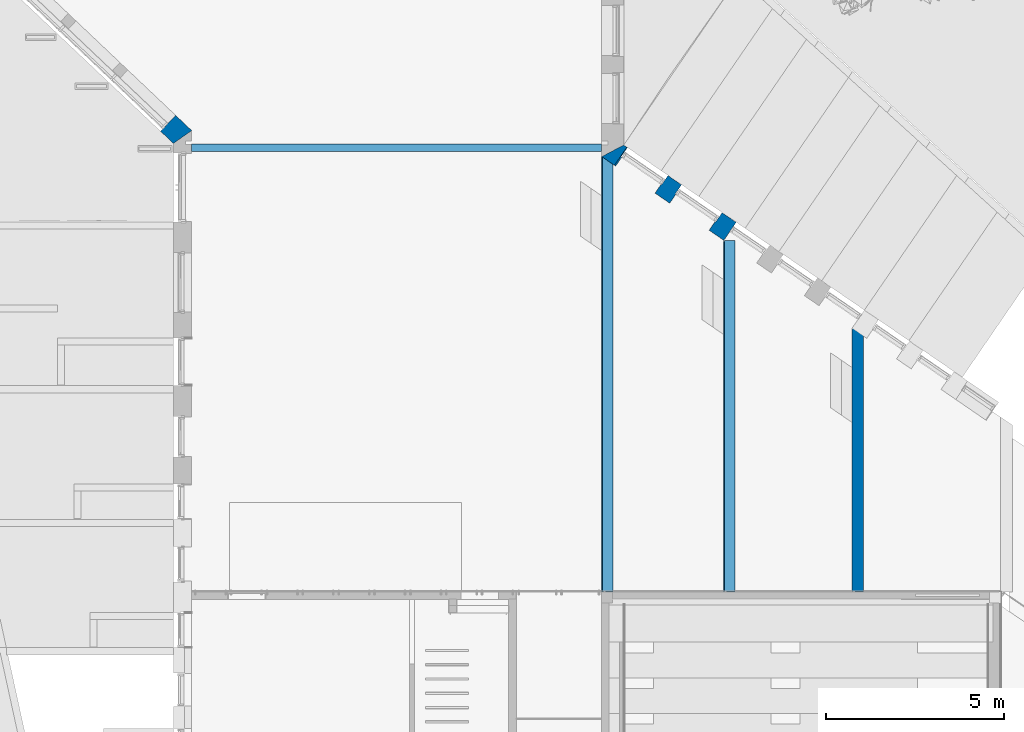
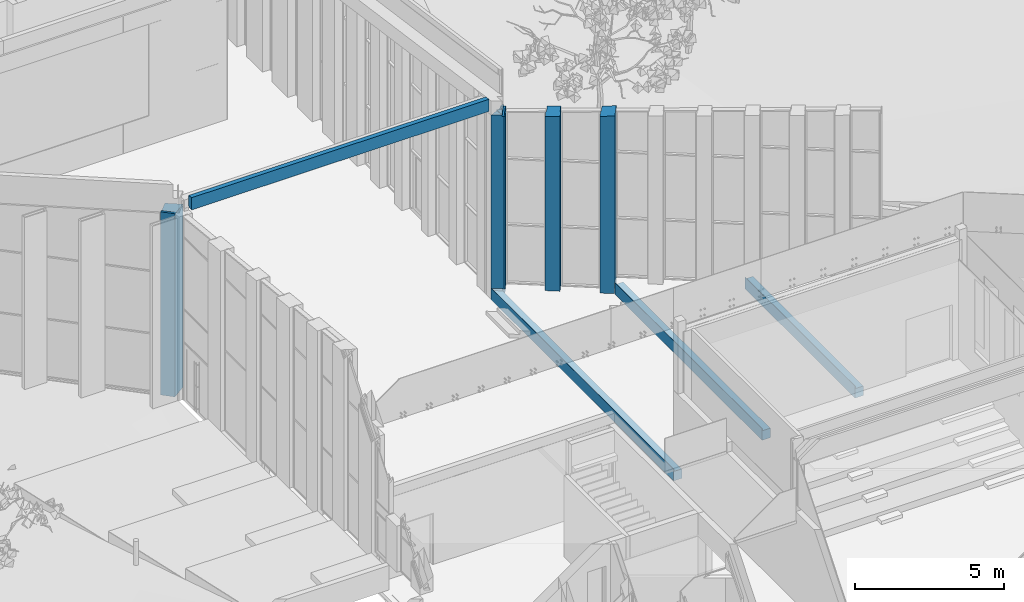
# One storey, part 124 of 246: 7 walls, 2 openings.
"""IFC2X3 building model written with IfcOpenShell, lengths in millimetres."""

from ifc_helpers import new_model, entity, si_unit, converted_unit, derived_unit, money_unit, direction, frame, origin_with_axes, place, context, subcontext, project, spatial, faceted_brep, material, material_list, type_object, element, save


model = new_model("IFC2X3")

# Units and contexts
model_context = context("Model", 3, precision=0.01, world=origin_with_axes(), true_north=direction((0.0, 1.0)))
body_context = subcontext(model_context, "Body", "Model", "MODEL_VIEW")
ifc_project = project(units=[si_unit("LENGTHUNIT", "METRE", prefix="MILLI"), si_unit("AREAUNIT", "SQUARE_METRE"), si_unit("VOLUMEUNIT", "CUBIC_METRE"), converted_unit("PLANEANGLEUNIT", "DEGREE", entity("IfcPlaneAngleMeasure", 0.0174532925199), si_unit("PLANEANGLEUNIT", "RADIAN"), dimensions=[0, 0, 0, 0, 0, 0, 0]), si_unit("SOLIDANGLEUNIT", "STERADIAN"), money_unit("EUR"), converted_unit("TIMEUNIT", "Year", entity("IfcTimeMeasure", 31556926.0), si_unit("TIMEUNIT", "SECOND"), dimensions=[0, 0, 1, 0, 0, 0, 0]), si_unit("MASSUNIT", "GRAM", prefix="KILO"), si_unit("THERMODYNAMICTEMPERATUREUNIT", "DEGREE_CELSIUS"), si_unit("LUMINOUSINTENSITYUNIT", "LUMEN"), si_unit("ENERGYUNIT", "JOULE", prefix="MEGA"), derived_unit("THERMALCONDUCTANCEUNIT", [(si_unit("POWERUNIT", "WATT"), 1), (si_unit("LENGTHUNIT", "METRE"), -1), (si_unit("THERMODYNAMICTEMPERATUREUNIT", "KELVIN"), -1)]), derived_unit("SPECIFICHEATCAPACITYUNIT", [(si_unit("ENERGYUNIT", "JOULE"), 1), (si_unit("MASSUNIT", "GRAM", prefix="KILO"), -1), (si_unit("THERMODYNAMICTEMPERATUREUNIT", "KELVIN"), -1)]), derived_unit("MASSDENSITYUNIT", [(si_unit("MASSUNIT", "GRAM", prefix="KILO"), 1), (si_unit("VOLUMEUNIT", "CUBIC_METRE"), -1)])], contexts=[model_context])

# Site, building, storey
site_placement = place(None, origin_with_axes())
site = spatial("IfcSite", under=ifc_project, at=site_placement, Name="L.Koidula tn 11b", CompositionType="ELEMENT")
building_placement = place(site_placement, origin_with_axes())
building = spatial("IfcBuilding", under=site, at=building_placement, Name="Rakvere Riigigümnaasium", CompositionType="ELEMENT")
storey_placement = place(building_placement, origin_with_axes())
storey = spatial("IfcBuildingStorey", under=building, at=storey_placement, Name="1.korrus 0,00", CompositionType="ELEMENT", Elevation=0.0)

# Walls
ifc_material_1 = material(Name="Betoon element / plaat")
wall_type_1 = type_object("IfcWallType", Name="SS-01 200", PredefinedType="NOTDEFINED")
wall_1_placement = place(storey_placement, frame((46999.9999935, 44064.4482372, 7600.0), z_axis=(0.0, 0.0, 1.0), x_axis=(-1.0, 0.0, 0.0)))
element("IfcWall", 1, at=wall_1_placement, inside=storey, type_object=wall_type_1, material=ifc_material_1, Name="Sisesein", context=body_context, shape_type="Brep", body=[
    faceted_brep([(11499.9999413, 0.0, 478.157530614), (0.0, 0.0, 477.982965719), (0.0, 0.0, 50.0), (129.527129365, 0.0, 50.0), (129.527129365, 0.0, 0.0), (11370.4728116, 0.0, 0.0), (11370.4728116, 0.0, 50.0), (11499.9999413, 0.0, 50.0), (0.0, 200.0, 499.003812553), (11499.9999413, 200.0, 499.178377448), (0.0, 200.0, 0.0), (0.0, 17.9388011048, 0.0), (0.0, 17.9388011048, 50.0), (129.527129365, 17.9388011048, 50.0), (129.527129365, 17.9388011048, 0.0), (11499.9999413, 200.0, 0.0), (11499.9999413, 12.9388011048, 0.0), (11370.4728116, 12.9388011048, 0.0), (11370.4728116, 12.9388011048, 50.0), (11499.9999413, 12.9388011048, 50.0)], [[[0, 1, 2, 3, 4, 5, 6, 7]], [[8, 1, 0, 9]], [[1, 8, 10, 11, 12, 2]], [[2, 12, 13, 3]], [[3, 13, 14, 4]], [[10, 15, 16, 17, 5, 4, 14, 11]], [[5, 17, 18, 6]], [[6, 18, 19, 7]], [[9, 0, 7, 19, 16, 15]], [[8, 9, 15, 10]], [[11, 14, 13, 12]], [[16, 19, 18, 17]]]),
])
ifc_material_2 = material(Name="Betoon-element")
ifc_material_3 = material(Name="FF-PIR soojustus")
ifc_material_4 = material(Name="Tuuletõke (RKL Facade)")
ifc_material_5 = material(Name="Salto-roovitus")
ifc_material_6 = material(Name="Puit-fassaad")
ifc_material_list_1 = material_list([ifc_material_2, ifc_material_3, ifc_material_4, ifc_material_5, ifc_material_5, ifc_material_6])
wall_type_2 = type_object("IfcWallType", Name="VS-02 614", PredefinedType="NOTDEFINED")
wall_2_placement = place(storey_placement, frame((47356.2591839, 43471.4770416, 0.0), z_axis=(0.0, 0.0, 1.0), x_axis=(-0.824666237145, 0.565619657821, 0.0)))
element("IfcWall", 2, at=wall_2_placement, inside=storey, type_object=wall_type_2, material=ifc_material_list_1, Name="Välissein", context=body_context, shape_type="Brep", body=[
    faceted_brep([(273.98367719, -300.000000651, 7521.50779913), (273.98367719, -300.000000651, 7573.30131546), (68.2190098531, -299.999999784, 7573.30131546), (68.2190098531, -300.0, 7497.4289826), (0.0, -300.0, 7501.48368194), (0.0, -300.0, 0.0), (273.983679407, -299.999999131, 0.0), (68.2189976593, 0.00227412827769, 7573.30131802), (68.2190078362, 1.1446360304e-05, 7497.4289826), (0.0, 1.13377964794e-05, 7501.48368182), (0.0, 0.0, 0.0), (43.9683219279, -3.61964680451e-07, 0.0), (168.110893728, -180.998284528, 0.0), (415.510764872, -11.3123871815, 0.0), (407.751860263, -3.35678862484e-06, 0.0), (432.004096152, -3.55643692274e-06, 0.0), (432.002540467, 0.00227412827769, 7544.0061072), (407.75185011, 1.14463460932e-05, 464.82180072), (43.9683138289, 1.14463460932e-05, 464.82180072), (168.110893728, -180.998284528, 464.82180072), (415.510764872, -11.3123871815, 464.82180072)], [[[0, 1, 2, 3, 4, 5, 6]], [[7, 1, 0]], [[1, 7, 2]], [[8, 3, 2, 7]], [[8, 9, 4, 3]], [[5, 4, 9, 10]], [[10, 11, 12, 13, 14, 15, 6, 5]], [[16, 0, 6, 15]], [[0, 16, 7]], [[7, 16, 15, 14, 17, 18, 11, 10, 9, 8]], [[11, 18, 19, 12]], [[12, 19, 20, 13]], [[13, 20, 17, 14]], [[17, 20, 19, 18]]]),
    faceted_brep([(179.171426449, -479.999999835, 7508.00904975), (179.171426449, -479.999999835, 7573.30131546), (68.2190110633, -479.999999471, 7573.30131546), (68.2190110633, -479.99999861, 7497.4289826), (0.0, -480.0, 7501.48368201), (0.0, -480.0, 0.0), (179.171428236, -479.99999861, 0.0), (68.2190099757, -318.232793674, 7573.30131546), (68.2190099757, -318.232793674, 7535.93714748), (68.2190098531, -299.997741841, 7538.07813582), (68.2190098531, -299.999999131, 7497.4289826), (0.0, -300.0, 7501.48368194), (0.0, -300.0, 0.0), (273.983679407, -299.999999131, 0.0), (273.982127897, -299.997741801, 7521.5081891)], [[[0, 1, 2, 3, 4, 5, 6]], [[7, 1, 0, 8]], [[1, 7, 2]], [[8, 9, 10, 3, 2, 7]], [[10, 11, 4, 3]], [[5, 4, 11, 12]], [[5, 12, 13, 6]], [[14, 0, 6, 13]], [[0, 14, 9, 8]], [[9, 14, 13, 12, 11, 10]]]),
    faceted_brep([(152.834690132, -529.999999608, 7504.25939714), (152.834690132, -529.999999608, 7573.30131546), (68.2190113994, -529.999999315, 7573.30131546), (68.2190113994, -530.0, 7497.4289826), (0.0, -530.0, 7501.48368203), (0.0, -530.0, 0.0), (152.834691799, -529.999998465, 0.0), (118.539288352, -479.997741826, 7573.30131546), (118.539288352, -479.997741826, 7512.89197463), (68.2190110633, -479.999999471, 7573.30131546), (68.2190110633, -480.0, 7497.4289826), (0.0, -480.0, 7501.48368201), (0.0, -480.0, 0.0), (179.171428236, -479.99999861, 0.0), (179.169877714, -479.997741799, 7508.00943958)], [[[0, 1, 2, 3, 4, 5, 6]], [[7, 1, 0, 8]], [[1, 7, 9, 2]], [[10, 3, 2, 9]], [[10, 11, 4, 3]], [[5, 4, 11, 12]], [[6, 5, 12, 13]], [[14, 0, 6, 13]], [[0, 14, 8]], [[8, 14, 13, 12, 11, 10, 9, 7]]]),
    faceted_brep([(135.979178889, -561.999999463, 7501.85961947), (135.979178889, -561.999999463, 7573.30131546), (68.2190116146, -561.999999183, 7573.30131546), (68.2190116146, -561.999998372, 7497.4289826), (0.0, -562.0, 7501.48368204), (0.0, -562.0, 0.0), (135.97918048, -561.999998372, 0.0), (114.029564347, -529.997741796, 7573.30131546), (114.029564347, -529.997741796, 7507.38460937), (68.2190113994, -529.999999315, 7573.30131546), (68.2190113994, -529.999998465, 7497.4289826), (0.0, -530.0, 7501.48368203), (0.0, -530.0, 0.0), (152.834691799, -529.999998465, 0.0), (152.833141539, -529.997741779, 7504.25978694)], [[[0, 1, 2, 3, 4, 5, 6]], [[7, 1, 0, 8]], [[1, 7, 9, 2]], [[10, 3, 2, 9]], [[10, 11, 4, 3]], [[5, 4, 11, 12]], [[5, 12, 13, 6]], [[14, 0, 6, 13]], [[0, 14, 8]], [[8, 14, 13, 12, 11, 10, 9, 7]]]),
    faceted_brep([(119.123667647, -593.999999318, 7499.45984181), (119.123667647, -593.999999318, 7573.30131546), (68.2190118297, -593.999999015, 7573.30131546), (68.2190118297, -593.99999828, 7497.4289826), (0.0, -594.0, 7501.48368206), (0.0, -594.0, 0.0), (119.123669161, -593.99999828, 0.0), (97.1740531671, -561.997741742, 7573.30131546), (97.1740531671, -561.997741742, 7504.98483169), (68.2190116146, -561.999999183, 7573.30131546), (68.2190116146, -561.999998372, 7497.4289826), (0.0, -562.0, 7501.48368204), (0.0, -562.0, 0.0), (135.97918048, -561.999998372, 0.0), (135.97763037, -561.997741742, 7501.86000926)], [[[0, 1, 2, 3, 4, 5, 6]], [[7, 1, 0, 8]], [[1, 7, 9, 2]], [[10, 3, 2, 9]], [[10, 11, 4, 3]], [[5, 4, 11, 12]], [[5, 12, 13, 6]], [[14, 0, 6, 13]], [[0, 14, 8]], [[8, 14, 13, 12, 11, 10, 9, 7]]]),
    faceted_brep([(108.58897365, -614.0, 7497.95998063), (94.0376321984, -614.0, 7499.13178904), (94.0376321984, -614.0, 7573.30131546), (68.2190119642, -614.0, 7573.30131546), (68.2190119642, -614.0, 7497.4289826), (0.0, -614.0, 7501.48368206), (0.0, -614.0, 0.0), (108.58897365, -614.0, 0.0), (119.122119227, -593.997741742, 7499.46023156), (80.3185420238, -593.997741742, 7502.585054), (80.3185420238, -593.997741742, 7573.30131546), (68.2190118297, -593.999999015, 7573.30131546), (68.2190118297, -593.99999828, 7497.4289826), (0.0, -594.0, 7501.48368206), (0.0, -594.0, 0.0), (119.123669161, -593.99999828, 0.0)], [[[0, 1, 2, 3, 4, 5, 6, 7]], [[1, 0, 8, 9]], [[10, 2, 1, 9]], [[2, 10, 11, 3]], [[12, 4, 3, 11]], [[12, 13, 5, 4]], [[6, 5, 13, 14]], [[6, 14, 15, 7]], [[8, 0, 7, 15]], [[9, 8, 15, 14, 13, 12, 11, 10]]]),
])

# Wall, openings
wall_3_placement = place(storey_placement, frame((50424.8422523, 41366.8062948, 465.0), z_axis=(0.0, 0.0, 1.0), x_axis=(-0.824666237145, 0.565619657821, 0.0)))
wall_3 = element("IfcWall", 3, at=wall_3_placement, inside=storey, type_object=wall_type_2, material=ifc_material_list_1, Name="Välissein", context=body_context, shape_type="Brep", body=[
    faceted_brep([(3721.0, -300.0, 7036.48368194), (3680.0, -300.0, 7038.92057853), (3680.0, -300.0, 0.0), (3721.0, -300.0, 0.0), (3680.0, 0.0, 7038.92057841), (3721.0, 0.0, 7036.48368182), (3680.0, 0.0, 0.0), (3721.0, 0.0, 0.0)], [[[0, 1, 2, 3]], [[4, 1, 0, 5]], [[1, 4, 6, 2]], [[3, 2, 6, 7]], [[5, 0, 3, 7]], [[4, 5, 7, 6]]]),
    faceted_brep([(2340.0, -300.0, 7118.56549165), (1840.00013675, -300.0, 7148.28373469), (1840.00013675, -300.0, 0.0), (2340.0, -300.0, 0.0), (1840.00013675, 0.0, 7148.28373457), (2340.0, 0.0, 7118.56549153), (1840.00013675, 0.0, 0.0), (2340.0, 0.0, 0.0)], [[[0, 1, 2, 3]], [[4, 1, 0, 5]], [[1, 4, 6, 2]], [[7, 3, 2, 6]], [[5, 0, 3, 7]], [[4, 5, 7, 6]]]),
    faceted_brep([(500.000136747, -300.0, 7227.9286478), (0.0, -299.999705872, 7257.64690709), (3.16191517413e-10, -299.998861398, 454.821815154), (211.634200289, -299.99892028, 454.821815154), (211.634200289, -299.99892028, 0.0), (500.000136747, -300.0, 0.0), (0.0, 0.0, 7257.64690697), (500.000136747, 0.0, 7227.92864768), (0.0, 0.0, 454.821815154), (5.87182153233, 0.0, 454.821815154), (5.87182153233, 0.0, 0.0), (500.000136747, 0.0, 0.0)], [[[0, 1, 2, 3, 4, 5]], [[6, 1, 0, 7]], [[1, 6, 8, 2]], [[3, 2, 8, 9]], [[3, 9, 10, 4]], [[4, 10, 11, 5]], [[7, 0, 5, 11]], [[6, 7, 11, 10, 9, 8]]]),
    faceted_brep([(3721.0, -480.0, 7036.48368201), (3700.0, -480.0, 7037.73184856), (3700.0, -480.0, 0.0), (3721.0, -480.0, 0.0), (3700.0, -300.0, 7037.73184849), (3721.0, -300.0, 7036.48368194), (3700.0, -300.0, 0.0), (3721.0, -300.0, 0.0)], [[[0, 1, 2, 3]], [[4, 1, 0, 5]], [[1, 4, 6, 2]], [[3, 2, 6, 7]], [[5, 0, 3, 7]], [[4, 5, 7, 6]]]),
    faceted_brep([(2320.0, -480.0, 7119.75422177), (1860.00013675, -480.0, 7147.09500471), (1860.00013675, -480.0, 0.0), (2320.0, -480.0, 0.0), (1860.00013675, -300.0, 7147.09500464), (2320.0, -300.0, 7119.7542217), (1860.00013675, -300.0, 0.0), (2320.0, -300.0, 0.0)], [[[0, 1, 2, 3]], [[4, 1, 0, 5]], [[1, 4, 6, 2]], [[7, 3, 2, 6]], [[5, 0, 3, 7]], [[4, 5, 7, 6]]]),
    faceted_brep([(480.000136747, -480.0, 7229.11737792), (0.0, -480.0, 7257.64690717), (0.0, -480.0, 0.0), (480.000136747, -480.0, 0.0), (0.0, -300.0, 7257.64690709), (480.000136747, -300.0, 7229.11737785), (0.0, -300.0, 0.0), (480.000136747, -300.0, 0.0)], [[[0, 1, 2, 3]], [[4, 1, 0, 5]], [[1, 4, 6, 2]], [[2, 6, 7, 3]], [[5, 0, 3, 7]], [[4, 5, 7, 6]]]),
    faceted_brep([(3721.0, -530.0, 7036.48368203), (3700.0, -530.0, 7037.73184858), (3700.0, -530.0, 0.0), (3721.0, -530.0, 0.0), (3700.0, -480.0, 7037.73184856), (3721.0, -480.0, 7036.48368201), (3700.0, -480.0, 0.0), (3721.0, -480.0, 0.0)], [[[0, 1, 2, 3]], [[4, 1, 0, 5]], [[1, 4, 6, 2]], [[3, 2, 6, 7]], [[5, 0, 3, 7]], [[4, 5, 7, 6]]]),
    faceted_brep([(2320.0, -530.0, 7119.75422179), (1860.00013675, -530.0, 7147.09500473), (1860.00013675, -530.0, 0.0), (2320.0, -530.0, 0.0), (1860.00013675, -480.0, 7147.09500471), (2320.0, -480.0, 7119.75422177), (1860.00013675, -480.0, 0.0), (2320.0, -480.0, 0.0)], [[[0, 1, 2, 3]], [[4, 1, 0, 5]], [[1, 4, 6, 2]], [[7, 3, 2, 6]], [[5, 0, 3, 7]], [[4, 5, 7, 6]]]),
    faceted_brep([(480.000136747, -530.0, 7229.11737794), (0.0, -530.0, 7257.64690719), (0.0, -530.0, 0.0), (480.000136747, -530.0, 0.0), (0.0, -480.0, 7257.64690717), (480.000136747, -480.0, 7229.11737792), (0.0, -480.0, 0.0), (480.000136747, -480.0, 0.0)], [[[0, 1, 2, 3]], [[4, 1, 0, 5]], [[1, 4, 6, 2]], [[2, 6, 7, 3]], [[5, 0, 3, 7]], [[4, 5, 7, 6]]]),
    faceted_brep([(3721.0, -562.0, 7036.48368204), (3700.0, -562.0, 7037.73184859), (3700.0, -562.0, 0.0), (3721.0, -562.0, 0.0), (3700.0, -530.0, 7037.73184858), (3721.0, -530.0, 7036.48368203), (3700.0, -530.0, 0.0), (3721.0, -530.0, 0.0)], [[[0, 1, 2, 3]], [[4, 1, 0, 5]], [[1, 4, 6, 2]], [[3, 2, 6, 7]], [[5, 0, 3, 7]], [[4, 5, 7, 6]]]),
    faceted_brep([(2320.0, -562.0, 7119.7542218), (1860.00013675, -562.0, 7147.09500474), (1860.00013675, -562.0, 0.0), (2320.0, -562.0, 0.0), (1860.00013675, -530.0, 7147.09500473), (2320.0, -530.0, 7119.75422179), (1860.00013675, -530.0, 0.0), (2320.0, -530.0, 0.0)], [[[0, 1, 2, 3]], [[4, 1, 0, 5]], [[1, 4, 6, 2]], [[7, 3, 2, 6]], [[5, 0, 3, 7]], [[4, 5, 7, 6]]]),
    faceted_brep([(480.000136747, -562.0, 7229.11737795), (0.0, -562.0, 7257.6469072), (0.0, -562.0, 0.0), (480.000136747, -562.0, 0.0), (0.0, -530.0, 7257.64690719), (480.000136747, -530.0, 7229.11737794), (0.0, -530.0, 0.0), (480.000136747, -530.0, 0.0)], [[[0, 1, 2, 3]], [[4, 1, 0, 5]], [[1, 4, 6, 2]], [[2, 6, 7, 3]], [[5, 0, 3, 7]], [[4, 5, 7, 6]]]),
    faceted_brep([(3721.0, -594.0, 7036.48368206), (3700.0, -594.0, 7037.7318486), (3700.0, -594.0, 0.0), (3721.0, -594.0, 0.0), (3700.0, -562.0, 7037.73184859), (3721.0, -562.0, 7036.48368204), (3700.0, -562.0, 0.0), (3721.0, -562.0, 0.0)], [[[0, 1, 2, 3]], [[4, 1, 0, 5]], [[1, 4, 6, 2]], [[3, 2, 6, 7]], [[5, 0, 3, 7]], [[4, 5, 7, 6]]]),
    faceted_brep([(2320.0, -594.0, 7119.75422181), (1860.00013675, -594.0, 7147.09500476), (1860.00013675, -594.0, 0.0), (2320.0, -594.0, 0.0), (1860.00013675, -562.0, 7147.09500474), (2320.0, -562.0, 7119.7542218), (1860.00013675, -562.0, 0.0), (2320.0, -562.0, 0.0)], [[[0, 1, 2, 3]], [[4, 1, 0, 5]], [[1, 4, 6, 2]], [[7, 3, 2, 6]], [[5, 0, 3, 7]], [[4, 5, 7, 6]]]),
    faceted_brep([(480.000136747, -594.0, 7229.11737797), (0.0, -594.0, 7257.64690721), (0.0, -594.0, 0.0), (480.000136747, -594.0, 0.0), (0.0, -562.0, 7257.6469072), (480.000136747, -562.0, 7229.11737795), (0.0, -562.0, 0.0), (480.000136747, -562.0, 0.0)], [[[0, 1, 2, 3]], [[4, 1, 0, 5]], [[1, 4, 6, 2]], [[2, 6, 7, 3]], [[5, 0, 3, 7]], [[4, 5, 7, 6]]]),
    faceted_brep([(3721.0, -614.0, 7036.48368206), (3700.0, -614.0, 7037.73184861), (3700.0, -614.0, 0.0), (3721.0, -614.0, 0.0), (3700.0, -594.0, 7037.7318486), (3721.0, -594.0, 7036.48368206), (3700.0, -594.0, 0.0), (3721.0, -594.0, 0.0)], [[[0, 1, 2, 3]], [[4, 1, 0, 5]], [[1, 4, 6, 2]], [[3, 2, 6, 7]], [[5, 0, 3, 7]], [[4, 5, 7, 6]]]),
    faceted_brep([(2320.0, -614.0, 7119.75422182), (1860.00013675, -614.0, 7147.09500476), (1860.00013675, -614.0, 0.0), (2320.0, -614.0, 0.0), (1860.00013675, -594.0, 7147.09500476), (2320.0, -594.0, 7119.75422181), (1860.00013675, -594.0, 0.0), (2320.0, -594.0, 0.0)], [[[0, 1, 2, 3]], [[4, 1, 0, 5]], [[1, 4, 6, 2]], [[7, 3, 2, 6]], [[5, 0, 3, 7]], [[4, 5, 7, 6]]]),
    faceted_brep([(480.000136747, -614.0, 7229.11737797), (0.0, -614.0, 7257.64690722), (0.0, -614.0, 0.0), (480.000136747, -614.0, 0.0), (0.0, -594.0, 7257.64690721), (480.000136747, -594.0, 7229.11737797), (0.0, -594.0, 0.0), (480.000136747, -594.0, 0.0)], [[[0, 1, 2, 3]], [[4, 1, 0, 5]], [[1, 4, 6, 2]], [[2, 6, 7, 3]], [[5, 0, 3, 7]], [[4, 5, 7, 6]]]),
])
opening_1_placement = place(wall_3_placement, frame((3010.0, 0.0, 0.0), z_axis=(0.0, 0.0, 1.0), x_axis=(1.0, 0.0, 0.0)))
element("IfcOpeningElement", 4, at=opening_1_placement, cuts=wall_3, Name="Ava", context=body_context, shape_type="Brep", body=[
    faceted_brep([(690.0, -300.0, 0.0), (690.0, -300.0, 7058.84158113), (690.0, -1228.0, 7058.84158113), (690.0, -1228.0, 0.0), (-690.0, -300.0, 0.0), (-690.0, -300.0, 7141.22964083), (-690.0, -1228.0, 7141.22964083), (-690.0, -1228.0, 0.0)], [[[0, 1, 2, 3]], [[0, 4, 5, 1]], [[1, 5, 6, 2]], [[3, 2, 6, 7]], [[4, 0, 3, 7]], [[5, 4, 7, 6]]]),
    faceted_brep([(-670.0, -300.0, 0.0), (-670.0, -300.0, 7120.0), (-670.0, 614.0, 7120.0), (-670.0, 614.0, 0.0), (670.0, -300.0, 0.0), (670.0, -300.0, 7040.0), (670.0, 614.0, 7040.0), (670.0, 614.0, 0.0)], [[[0, 1, 2, 3]], [[0, 4, 5, 1]], [[1, 5, 6, 2]], [[3, 2, 6, 7]], [[4, 0, 3, 7]], [[5, 4, 7, 6]]]),
])
opening_2_placement = place(wall_3_placement, frame((1170.00013675, 0.0, 0.0), z_axis=(0.0, 0.0, 1.0), x_axis=(1.0, 0.0, 0.0)))
element("IfcOpeningElement", 5, at=opening_2_placement, cuts=wall_3, Name="Ava", context=body_context, shape_type="Brep", body=[
    faceted_brep([(690.0, -300.0, 0.0), (690.0, -300.0, 7168.84158113), (690.0, -1228.0, 7168.84158113), (690.0, -1228.0, 0.0), (-690.0, -300.0, 0.0), (-690.0, -300.0, 7251.22964083), (-690.0, -1228.0, 7251.22964083), (-690.0, -1228.0, 0.0)], [[[0, 1, 2, 3]], [[0, 4, 5, 1]], [[1, 5, 6, 2]], [[3, 2, 6, 7]], [[4, 0, 3, 7]], [[5, 4, 7, 6]]]),
    faceted_brep([(-670.0, -300.0, 0.0), (-670.0, -300.0, 7230.0), (-670.0, 614.0, 7230.0), (-670.0, 614.0, 0.0), (670.0, -300.0, 0.0), (670.0, -300.0, 7150.0), (670.0, 614.0, 7150.0), (670.0, 614.0, 0.0)], [[[0, 1, 2, 3]], [[0, 4, 5, 1]], [[1, 5, 6, 2]], [[3, 2, 6, 7]], [[4, 0, 3, 7]], [[5, 4, 7, 6]]]),
])

# Walls
wall_4_placement = place(storey_placement, frame((35048.4690737, 44873.346345, 0.0), z_axis=(0.0, 0.0, 1.0), x_axis=(0.725934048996, -0.68776431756, 0.0)))
element("IfcWall", 6, at=wall_4_placement, inside=storey, type_object=wall_type_2, material=ifc_material_list_1, Name="Välissein", context=body_context, shape_type="Brep", body=[
    faceted_brep([(0.0, 0.0, 7428.27428385), (622.0, 0.0, 7489.60219288), (622.000011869, -1.25278347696e-05, 0.0), (0.0, 0.0, 0.0), (560.271560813, -300.0, 7484.1369258), (0.0, -300.0, 7428.89531276), (560.271560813, -300.000039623, 0.0), (0.0, -300.0, 0.0)], [[[0, 1, 2, 3]], [[4, 1, 0, 5]], [[1, 4, 6, 2]], [[7, 3, 2, 6]], [[5, 0, 3, 7]], [[4, 5, 7, 6]]]),
    faceted_brep([(0.0, -300.0, 7428.89531276), (560.271560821, -300.0, 7484.1369258), (560.271560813, -300.000039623, 0.0), (0.0, -300.0, 0.0), (523.234507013, -480.0, 7480.85776651), (0.0, -480.0, 7429.2679301), (523.234507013, -480.000016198, 0.0), (0.0, -480.0, 0.0)], [[[0, 1, 2, 3]], [[4, 1, 0, 5]], [[1, 4, 6, 2]], [[6, 7, 3, 2]], [[5, 0, 3, 7]], [[4, 5, 7, 6]]]),
    faceted_brep([(0.0, -480.0, 7429.2679301), (523.234507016, -480.0, 7480.85776651), (523.234507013, -480.000016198, 0.0), (0.0, -480.0, 0.0), (512.946437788, -530.0, 7479.94688905), (0.0, -530.0, 7429.37143492), (512.946437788, -530.000003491, 0.0), (0.0, -530.0, 0.0)], [[[0, 1, 2, 3]], [[4, 1, 0, 5]], [[1, 4, 6, 2]], [[6, 7, 3, 2]], [[5, 0, 3, 7]], [[4, 5, 7, 6]]]),
    faceted_brep([(0.0, -530.0, 7489.60219288), (0.0, -562.0, 7489.60219288), (506.362073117, -561.999997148, 7489.60219288), (512.946437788, -530.000003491, 7489.60219288), (0.0, -562.0, 0.0), (0.0, -530.0, 0.0), (506.362073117, -561.999997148, 0.0), (512.946437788, -530.000003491, 0.0)], [[[0, 1, 2, 3]], [[4, 1, 0, 5]], [[1, 4, 6, 2]], [[2, 6, 7, 3]], [[5, 0, 3, 7]], [[4, 5, 7, 6]]]),
    faceted_brep([(0.0, -562.0, 7489.60219288), (0.0, -594.0, 7489.60219288), (499.777700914, -594.000027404, 7489.60219288), (506.362073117, -561.999997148, 7489.60219288), (0.0, -594.0, 0.0), (0.0, -562.0, 0.0), (499.777700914, -594.000027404, 0.0), (506.362073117, -561.999997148, 0.0)], [[[0, 1, 2, 3]], [[4, 1, 0, 5]], [[1, 4, 6, 2]], [[2, 6, 7, 3]], [[5, 0, 3, 7]], [[4, 5, 7, 6]]]),
    faceted_brep([(0.0, -594.0, 7489.60219288), (0.0, -614.0, 7489.60219288), (495.662477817, -614.0, 7489.60219288), (499.777700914, -594.000027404, 7489.60219288), (0.0, -614.0, 0.0), (0.0, -594.0, 0.0), (495.662477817, -614.0, 0.0), (499.777700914, -594.000027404, 0.0)], [[[0, 1, 2, 3]], [[4, 1, 0, 5]], [[1, 4, 6, 2]], [[2, 6, 7, 3]], [[5, 0, 3, 7]], [[4, 5, 7, 6]]]),
])
ifc_material_7 = material(Name="Parkett-2")
ifc_material_8 = material(Name="Viineer")
ifc_material_list_2 = material_list([ifc_material_7, ifc_material_8, ifc_material_1])
wall_type_3 = type_object("IfcWallType", Name="SS-01-3 320", PredefinedType="NOTDEFINED")
wall_5_placement = place(storey_placement, frame((50439.9999593, 31500.4555152, 364.821816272), z_axis=(0.0, 0.0, 1.0), x_axis=(0.0, 1.0, 0.0)))
element("IfcWall", 7, at=wall_5_placement, inside=storey, type_object=wall_type_3, material=ifc_material_list_2, Name="Sisesein", context=body_context, shape_type="Brep", body=[
    faceted_brep([(5.49914496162e-05, 10.0, 90.0), (9832.49656262, 10.0, 90.0), (9832.49656262, 10.0, 564.999966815), (0.0, 10.0, 564.999966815), (9839.35533718, 20.0, 90.0), (5.44878915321e-05, 20.0, 90.0), (9839.35533718, 20.0, 564.999966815), (0.0, 20.0, 564.999966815)], [[[0, 1, 2, 3]], [[4, 1, 0, 5]], [[1, 4, 6, 2]], [[2, 6, 7, 3]], [[5, 0, 3, 7]], [[4, 5, 7, 6]]]),
    faceted_brep([(5.5495011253e-05, 0.0, 90.0), (9825.63778807, 0.0, 90.0), (9825.63778807, 0.0, 554.999998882), (-6.71749198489e-05, 0.0, 554.999998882), (9832.49656262, 10.0, 90.0), (5.49914496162e-05, 10.0, 90.0), (9832.49656262, 10.0, 554.999998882), (-6.75638069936e-05, 10.0, 554.999998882)], [[[0, 1, 2, 3]], [[4, 1, 0, 5]], [[1, 4, 6, 2]], [[3, 2, 6, 7]], [[5, 0, 3, 7]], [[4, 5, 7, 6]]]),
    faceted_brep([(7.06017821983e-05, -300.000000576, 90.0), (9865.80400939, -300.000000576, 90.0), (9865.80400939, -300.0, 474.999998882), (-5.55082415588e-05, -300.0, 474.999998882), (9865.80400939, 0.0, 90.0), (5.5495011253e-05, 0.0, 90.0), (9865.80400939, 0.0, 474.999998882), (-6.71749198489e-05, 0.0, 474.999998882)], [[[0, 1, 2, 3]], [[4, 1, 0, 5]], [[1, 4, 6, 2]], [[3, 2, 6, 7]], [[5, 0, 3, 7]], [[4, 5, 7, 6]]]),
])
wall_6_placement = place(storey_placement, frame((54041.1803325, 31500.4555145, 829.821815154), z_axis=(0.0, 0.0, 1.0), x_axis=(3.80608987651e-08, 1.0, 0.0)))
element("IfcWall", 8, at=wall_6_placement, inside=storey, type_object=wall_type_3, material=ifc_material_list_2, Name="Sisesein", context=body_context, shape_type="Brep", body=[
    faceted_brep([(3.80609321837e-07, 10.0, 565.0), (7.28628393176e-05, 10.0, 90.0), (7362.52813175, 10.0002802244, 90.0), (7362.52813175, 10.0002802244, 565.0), (0.0, 20.0, 565.0), (7.20933428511e-05, 20.0, 90.0), (7369.38690593, 20.0002804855, 90.0), (7369.38690593, 20.0002804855, 565.0)], [[[0, 1, 2, 3]], [[4, 5, 1, 0]], [[5, 6, 2, 1]], [[3, 2, 6, 7]], [[0, 3, 7, 4]], [[7, 6, 5, 4]]]),
    faceted_brep([(7362.52813175, 10.0002802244, 90.0), (7362.52813175, 10.0002802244, 555.0), (7355.66935758, 0.000279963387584, 555.0), (7355.66935758, 0.000279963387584, 90.0), (7.28628428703e-05, 10.0, 90.0), (6.30322425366e-05, 10.0, 555.0), (6.34128518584e-05, 0.0, 555.0), (7.36323393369e-05, 0.0, 90.0)], [[[0, 1, 2, 3]], [[4, 5, 1, 0]], [[5, 6, 2, 1]], [[3, 2, 6, 7]], [[4, 0, 3, 7]], [[7, 6, 5, 4]]]),
    faceted_brep([(7399.70200156, 0.000281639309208, 90.0), (7399.70200156, 0.000281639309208, 475.0), (7399.70201298, -299.999718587, 475.0), (7399.70201298, -299.999719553, 90.0), (7.36323393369e-05, 0.0, 90.0), (6.34128518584e-05, 0.0, 475.0), (7.48311208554e-05, -300.000000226, 475.0), (9.6717286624e-05, -300.000001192, 90.0)], [[[0, 1, 2, 3]], [[4, 5, 1, 0]], [[5, 6, 2, 1]], [[3, 2, 6, 7]], [[4, 0, 3, 7]], [[7, 6, 5, 4]]]),
])
wall_7_placement = place(storey_placement, frame((47019.9999935, 31500.4555152, -100.0), z_axis=(0.0, 0.0, 1.0), x_axis=(0.0, 1.0, 0.0)))
element("IfcWall", 9, at=wall_7_placement, inside=storey, type_object=wall_type_3, material=ifc_material_list_2, Name="Sisesein", context=body_context, shape_type="Brep", body=[
    faceted_brep([(0.0, 10.0, 564.82180072), (-4.39438707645e-06, 10.0, 90.0), (12215.3715268, 10.0, 90.0), (12215.3715268, 10.0, 100.0), (12208.5127676, 10.0, 100.0), (12208.5127676, 10.0000000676, 564.82180072), (0.0, 20.0, 564.82180072), (-4.39379732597e-06, 20.0, 90.0), (12215.3715372, 20.0, 90.0), (12215.3715383, 20.0, 100.0), (12215.3715383, 20.0, 564.82180072)], [[[0, 1, 2, 3, 4, 5]], [[6, 7, 1, 0]], [[7, 8, 2, 1]], [[3, 2, 8, 9]], [[3, 9, 4]], [[4, 9, 10, 5]], [[6, 0, 5, 10]], [[9, 8, 7, 6, 10]]]),
    faceted_brep([(12208.5127676, 10.0, 100.0), (12208.51276, 10.0000053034, 554.821816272), (12201.6539894, 5.21576737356e-06, 554.821816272), (12201.6539968, 0.0, 100.0), (-4.39438707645e-06, 10.0, 90.0), (-0.000117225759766, 9.99999999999, 554.821816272), (12215.3715268, 10.0, 100.0), (12215.3715268, 10.0, 90.0), (-0.000116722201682, 0.0, 554.821816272), (-4.3949732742e-06, 0.0, 90.0), (12215.3715268, 0.0, 90.0), (12215.3715268, 0.0, 100.0)], [[[0, 1, 2, 3]], [[4, 5, 1, 0, 6, 7]], [[5, 8, 2, 1]], [[3, 2, 8, 9, 10, 11]], [[6, 0, 3, 11]], [[9, 8, 5, 4]], [[11, 10, 7, 6]], [[4, 7, 10, 9]]]),
    faceted_brep([(11995.8908721, -300.0, 564.821816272), (12201.6539859, 0.0, 564.821816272), (12201.6539859, 0.0, 474.821816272), (11995.8908721, -300.0, 474.821816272), (12215.3715268, 0.0, 564.82180072), (12215.3715268, -300.0, 564.82180072), (-0.000116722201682, 0.0, 474.821816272), (12215.3715268, 0.0, 90.0), (-4.3949732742e-06, 0.0, 90.0), (-0.000101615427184, -300.000000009, 474.821816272), (-4.41261605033e-06, -300.00000005, 90.0), (12215.3715268, -299.999989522, 90.0)], [[[0, 1, 2, 3]], [[4, 1, 0, 5]], [[6, 2, 1, 4, 7, 8]], [[6, 9, 3, 2]], [[0, 3, 9, 10, 11, 5]], [[5, 11, 7, 4]], [[8, 7, 11, 10]], [[10, 9, 6, 8]]]),
])

save(model, "model.ifc")
